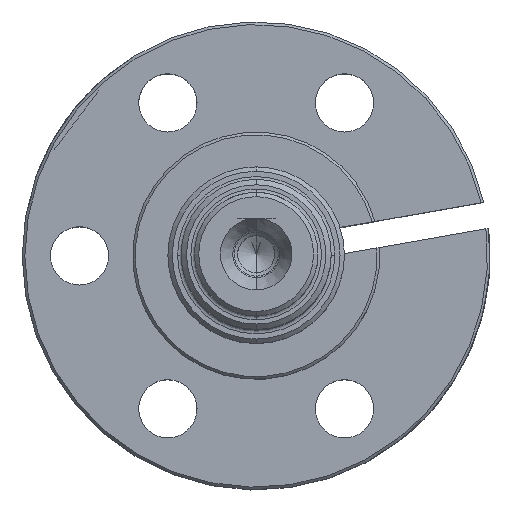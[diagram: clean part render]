
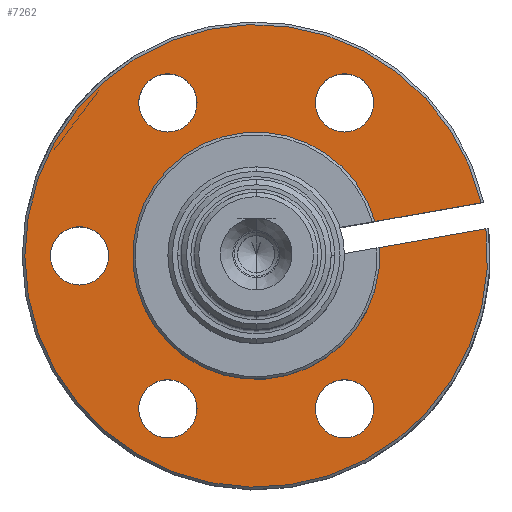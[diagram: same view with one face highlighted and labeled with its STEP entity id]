
A CAD part, top view. The second image highlights one B-rep face of the part: STEP entity #7262.
In plain terms, the highlighted planar face has unit normal (0, 0, 1).
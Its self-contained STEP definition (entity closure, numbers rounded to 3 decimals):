
#5480=CARTESIAN_POINT('',(0.,0.,15.));
#5481=DIRECTION('',(0.,0.,-1.));
#5482=DIRECTION('',(0.067,-0.998,0.));
#5483=AXIS2_PLACEMENT_3D('',#5480,#5481,#5482);
#5885=CARTESIAN_POINT('',(-17.321,-10.,15.));
#5886=DIRECTION('',(0.,0.,-1.));
#5887=DIRECTION('',(-1.,0.,0.));
#5888=AXIS2_PLACEMENT_3D('',#5885,#5886,#5887);
#5893=CARTESIAN_POINT('',(-17.321,-10.,15.));
#5894=DIRECTION('',(0.,0.,-1.));
#5895=DIRECTION('',(1.,0.,0.));
#5896=AXIS2_PLACEMENT_3D('',#5893,#5894,#5895);
#5901=CARTESIAN_POINT('',(-17.321,10.,15.));
#5902=DIRECTION('',(0.,0.,-1.));
#5903=DIRECTION('',(-1.,0.,0.));
#5904=AXIS2_PLACEMENT_3D('',#5901,#5902,#5903);
#5909=CARTESIAN_POINT('',(-17.321,10.,15.));
#5910=DIRECTION('',(0.,0.,-1.));
#5911=DIRECTION('',(1.,0.,0.));
#5912=AXIS2_PLACEMENT_3D('',#5909,#5910,#5911);
#5917=CARTESIAN_POINT('',(0.,20.,15.));
#5918=DIRECTION('',(0.,0.,-1.));
#5919=DIRECTION('',(-1.,0.,0.));
#5920=AXIS2_PLACEMENT_3D('',#5917,#5918,#5919);
#5925=CARTESIAN_POINT('',(0.,20.,15.));
#5926=DIRECTION('',(0.,0.,-1.));
#5927=DIRECTION('',(1.,0.,0.));
#5928=AXIS2_PLACEMENT_3D('',#5925,#5926,#5927);
#5933=CARTESIAN_POINT('',(17.321,-10.,15.));
#5934=DIRECTION('',(0.,0.,1.));
#5935=DIRECTION('',(1.,0.,0.));
#5936=AXIS2_PLACEMENT_3D('',#5933,#5934,#5935);
#5941=CARTESIAN_POINT('',(17.321,-10.,15.));
#5942=DIRECTION('',(0.,0.,1.));
#5943=DIRECTION('',(-1.,0.,0.));
#5944=AXIS2_PLACEMENT_3D('',#5941,#5942,#5943);
#5949=CARTESIAN_POINT('',(17.321,10.,15.));
#5950=DIRECTION('',(0.,0.,1.));
#5951=DIRECTION('',(1.,0.,0.));
#5952=AXIS2_PLACEMENT_3D('',#5949,#5950,#5951);
#5957=CARTESIAN_POINT('',(17.321,10.,15.));
#5958=DIRECTION('',(0.,0.,1.));
#5959=DIRECTION('',(-1.,0.,0.));
#5960=AXIS2_PLACEMENT_3D('',#5957,#5958,#5959);
#5965=DIRECTION('',(0.174,-0.985,0.));
#5966=VECTOR('',#5965,12.238);
#5967=CARTESIAN_POINT('',(3.894,-13.447,15.));
#5968=LINE('',#5967,#5966);
#5972=DIRECTION('',(-0.174,0.985,0.));
#5973=VECTOR('',#5972,12.238);
#5974=CARTESIAN_POINT('',(3.065,-26.02,15.));
#5975=LINE('',#5974,#5973);
#6053=CARTESIAN_POINT('',(0.,0.,15.));
#6054=DIRECTION('',(0.,0.,1.));
#6055=DIRECTION('',(0.23,-0.973,0.));
#6056=AXIS2_PLACEMENT_3D('',#6053,#6054,#6055);
#6769=CARTESIAN_POINT('',(6.019,-25.499,15.));
#6770=CARTESIAN_POINT('',(3.065,-26.02,15.));
#6771=VERTEX_POINT('',#6769);
#6772=VERTEX_POINT('',#6770);
#6795=CARTESIAN_POINT('',(3.894,-13.447,15.));
#6796=VERTEX_POINT('',#6795);
#6797=CARTESIAN_POINT('',(0.94,-13.968,15.));
#6798=VERTEX_POINT('',#6797);
#6857=CARTESIAN_POINT('',(-20.621,-10.,15.));
#6859=VERTEX_POINT('',#6857);
#6861=CARTESIAN_POINT('',(-14.021,-10.,15.));
#6863=VERTEX_POINT('',#6861);
#6865=CARTESIAN_POINT('',(-20.621,10.,15.));
#6867=VERTEX_POINT('',#6865);
#6869=CARTESIAN_POINT('',(-14.021,10.,15.));
#6871=VERTEX_POINT('',#6869);
#6873=CARTESIAN_POINT('',(-3.3,20.,15.));
#6875=VERTEX_POINT('',#6873);
#6877=CARTESIAN_POINT('',(3.3,20.,15.));
#6879=VERTEX_POINT('',#6877);
#6881=CARTESIAN_POINT('',(20.621,-10.,15.));
#6883=VERTEX_POINT('',#6881);
#6885=CARTESIAN_POINT('',(14.021,-10.,15.));
#6887=VERTEX_POINT('',#6885);
#6889=CARTESIAN_POINT('',(20.621,10.,15.));
#6891=VERTEX_POINT('',#6889);
#6893=CARTESIAN_POINT('',(14.021,10.,15.));
#6895=VERTEX_POINT('',#6893);
#7221=CARTESIAN_POINT('',(0.,0.,15.));
#7222=DIRECTION('',(0.,0.,-1.));
#7223=DIRECTION('',(0.,-1.,0.));
#7224=AXIS2_PLACEMENT_3D('',#7221,#7222,#7223);
#7225=PLANE('',#7224);
#7227=ORIENTED_EDGE('',*,*,#7226,.F.);
#7228=ORIENTED_EDGE('',*,*,#7051,.F.);
#7229=ORIENTED_EDGE('',*,*,#6925,.F.);
#7231=ORIENTED_EDGE('',*,*,#7230,.F.);
#7232=EDGE_LOOP('',(#7227,#7228,#7229,#7231));
#7233=FACE_OUTER_BOUND('',#7232,.F.);
#7235=ORIENTED_EDGE('',*,*,#7234,.F.);
#7237=ORIENTED_EDGE('',*,*,#7236,.F.);
#7238=EDGE_LOOP('',(#7235,#7237));
#7239=FACE_BOUND('',#7238,.F.);
#7241=ORIENTED_EDGE('',*,*,#7240,.F.);
#7243=ORIENTED_EDGE('',*,*,#7242,.F.);
#7244=EDGE_LOOP('',(#7241,#7243));
#7245=FACE_BOUND('',#7244,.F.);
#7247=ORIENTED_EDGE('',*,*,#7246,.T.);
#7249=ORIENTED_EDGE('',*,*,#7248,.T.);
#7250=EDGE_LOOP('',(#7247,#7249));
#7251=FACE_BOUND('',#7250,.F.);
#7253=ORIENTED_EDGE('',*,*,#7252,.T.);
#7255=ORIENTED_EDGE('',*,*,#7254,.T.);
#7256=EDGE_LOOP('',(#7253,#7255));
#7257=FACE_BOUND('',#7256,.F.);
#7258=ORIENTED_EDGE('',*,*,#7200,.F.);
#7259=ORIENTED_EDGE('',*,*,#7216,.F.);
#7260=EDGE_LOOP('',(#7258,#7259));
#7261=FACE_BOUND('',#7260,.F.);
#5484=CIRCLE('',#5483,14.);
#5889=CIRCLE('',#5888,3.3);
#5897=CIRCLE('',#5896,3.3);
#5905=CIRCLE('',#5904,3.3);
#5913=CIRCLE('',#5912,3.3);
#5921=CIRCLE('',#5920,3.3);
#5929=CIRCLE('',#5928,3.3);
#5937=CIRCLE('',#5936,3.3);
#5945=CIRCLE('',#5944,3.3);
#5953=CIRCLE('',#5952,3.3);
#5961=CIRCLE('',#5960,3.3);
#6057=CIRCLE('',#6056,26.2);
#6925=EDGE_CURVE('',#6798,#6796,#5484,.T.);
#7051=EDGE_CURVE('',#6796,#6771,#5968,.T.);
#7200=EDGE_CURVE('',#6859,#6863,#5889,.T.);
#7216=EDGE_CURVE('',#6863,#6859,#5897,.T.);
#7226=EDGE_CURVE('',#6771,#6772,#6057,.T.);
#7230=EDGE_CURVE('',#6772,#6798,#5975,.T.);
#7234=EDGE_CURVE('',#6867,#6871,#5905,.T.);
#7236=EDGE_CURVE('',#6871,#6867,#5913,.T.);
#7240=EDGE_CURVE('',#6875,#6879,#5921,.T.);
#7242=EDGE_CURVE('',#6879,#6875,#5929,.T.);
#7246=EDGE_CURVE('',#6883,#6887,#5937,.T.);
#7248=EDGE_CURVE('',#6887,#6883,#5945,.T.);
#7252=EDGE_CURVE('',#6891,#6895,#5953,.T.);
#7254=EDGE_CURVE('',#6895,#6891,#5961,.T.);
#7262=ADVANCED_FACE('',(#7233,#7239,#7245,#7251,#7257,#7261),#7225,.F.);
